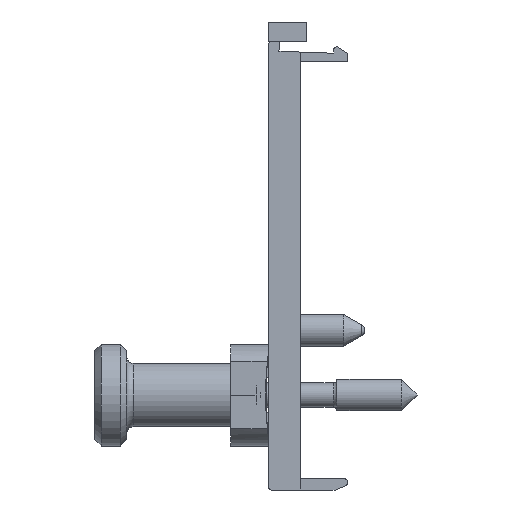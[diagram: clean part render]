
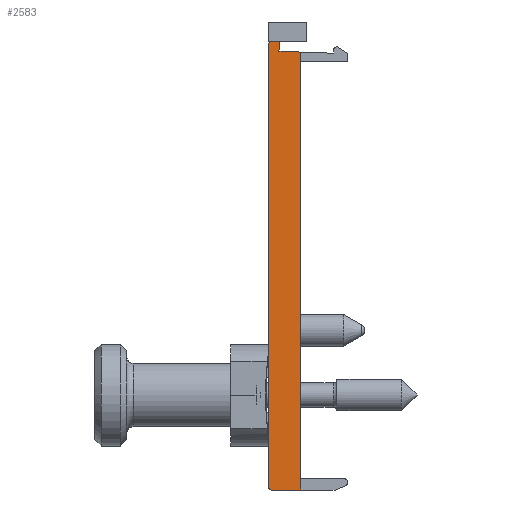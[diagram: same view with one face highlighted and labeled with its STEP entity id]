
A CAD part, front view. The second image highlights one B-rep face of the part: STEP entity #2583.
In plain terms, the highlighted planar face has unit normal (0, -1, 0).
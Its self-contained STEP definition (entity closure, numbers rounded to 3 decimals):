
#1491=LINE('',#10637,#2085);
#1520=LINE('',#10779,#2114);
#1652=LINE('',#11722,#2246);
#1655=LINE('',#11730,#2249);
#1656=LINE('',#11731,#2250);
#1657=LINE('',#11733,#2251);
#2085=VECTOR('',#8407,1.);
#2114=VECTOR('',#8438,1.);
#2246=VECTOR('',#8724,1.);
#2249=VECTOR('',#8731,1.);
#2250=VECTOR('',#8732,1.);
#2251=VECTOR('',#8733,1.);
#2583=ADVANCED_FACE('',(#3057),#2810,.F.);
#2810=PLANE('',#7546);
#3057=FACE_OUTER_BOUND('',#3434,.T.);
#3434=EDGE_LOOP('',(#4765,#4766,#4767,#4768,#4769,#4770,#4771,#4772));
#4765=ORIENTED_EDGE('',*,*,#6579,.T.);
#4766=ORIENTED_EDGE('',*,*,#6817,.T.);
#4767=ORIENTED_EDGE('',*,*,#6818,.T.);
#4768=ORIENTED_EDGE('',*,*,#6615,.T.);
#4769=ORIENTED_EDGE('',*,*,#6819,.F.);
#4770=ORIENTED_EDGE('',*,*,#6820,.T.);
#4771=ORIENTED_EDGE('',*,*,#6814,.T.);
#4772=ORIENTED_EDGE('',*,*,#6821,.T.);
#5798=VERTEX_POINT('',#10636);
#5799=VERTEX_POINT('',#10638);
#5820=VERTEX_POINT('',#10750);
#5834=VERTEX_POINT('',#10778);
#6026=VERTEX_POINT('',#11721);
#6027=VERTEX_POINT('',#11723);
#6029=VERTEX_POINT('',#11729);
#6030=VERTEX_POINT('',#11732);
#6579=EDGE_CURVE('',#5799,#5798,#1491,.T.);
#6615=EDGE_CURVE('',#5820,#5834,#1520,.T.);
#6814=EDGE_CURVE('',#6027,#6026,#1652,.T.);
#6817=EDGE_CURVE('',#5798,#6029,#7231,.T.);
#6818=EDGE_CURVE('',#6029,#5820,#1655,.T.);
#6819=EDGE_CURVE('',#6030,#5834,#1656,.T.);
#6820=EDGE_CURVE('',#6030,#6027,#1657,.T.);
#6821=EDGE_CURVE('',#6026,#5799,#7232,.T.);
#7231=CIRCLE('',#7544,0.2);
#7232=CIRCLE('',#7545,0.2);
#7544=AXIS2_PLACEMENT_3D('',#11728,#8729,#8730);
#7545=AXIS2_PLACEMENT_3D('',#11734,#8734,#8735);
#7546=AXIS2_PLACEMENT_3D('',#11735,#8736,#8737);
#8407=DIRECTION('',(0.,0.,-1.));
#8438=DIRECTION('',(0.,0.,1.));
#8724=DIRECTION('',(-1.,0.,0.));
#8729=DIRECTION('',(0.,-1.,0.));
#8730=DIRECTION('',(-1.,0.,0.));
#8731=DIRECTION('',(1.,0.,0.));
#8732=DIRECTION('',(0.999,0.,-0.035));
#8733=DIRECTION('',(0.035,0.,0.999));
#8734=DIRECTION('',(0.,-1.,0.));
#8735=DIRECTION('',(-1.,0.,0.));
#8736=DIRECTION('',(0.,1.,0.));
#8737=DIRECTION('',(0.,0.,1.));
#10636=CARTESIAN_POINT('',(-5.,-14.15,-6.53));
#10637=CARTESIAN_POINT('',(-5.,-14.15,10.88));
#10638=CARTESIAN_POINT('',(-5.,-14.15,28.29));
#10750=CARTESIAN_POINT('',(-2.5,-14.15,-6.73));
#10778=CARTESIAN_POINT('',(-2.5,-14.15,27.631));
#10779=CARTESIAN_POINT('',(-2.5,-14.15,10.88));
#11721=CARTESIAN_POINT('',(-4.8,-14.15,28.49));
#11722=CARTESIAN_POINT('',(-3.745,-14.15,28.49));
#11723=CARTESIAN_POINT('',(-4.172,-14.15,28.49));
#11728=CARTESIAN_POINT('',(-4.8,-14.15,-6.53));
#11729=CARTESIAN_POINT('',(-4.8,-14.15,-6.73));
#11730=CARTESIAN_POINT('',(-3.745,-14.15,-6.73));
#11731=CARTESIAN_POINT('',(-3.159,-14.15,27.654));
#11732=CARTESIAN_POINT('',(-4.2,-14.15,27.69));
#11733=CARTESIAN_POINT('',(-4.786,-14.15,10.916));
#11734=CARTESIAN_POINT('',(-4.8,-14.15,28.29));
#11735=CARTESIAN_POINT('',(-3.745,-14.15,10.88));
